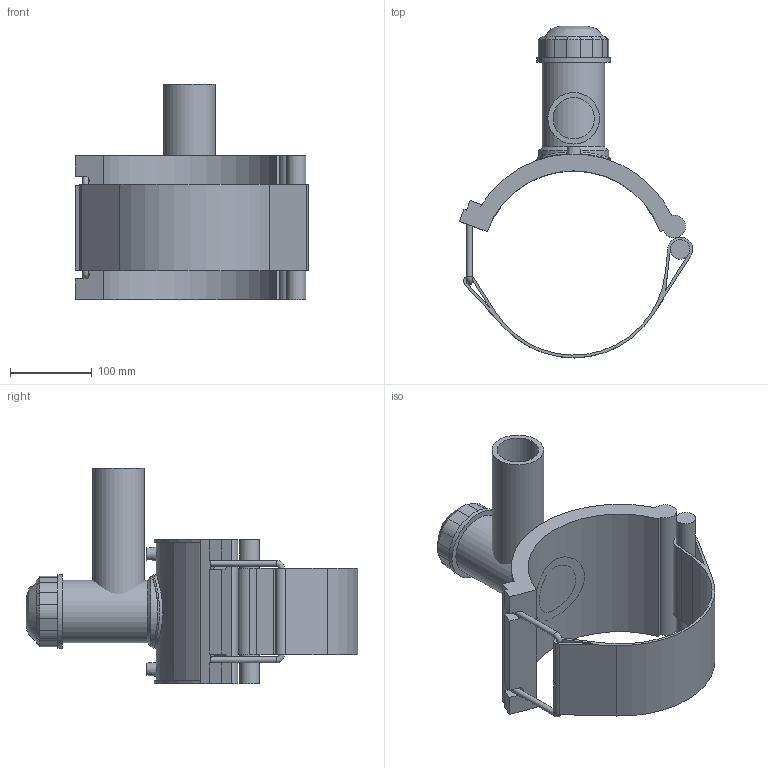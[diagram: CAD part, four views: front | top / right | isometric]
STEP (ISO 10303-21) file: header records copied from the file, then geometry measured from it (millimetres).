
FILE_DESCRIPTION(/* description */ (''),/* implementation_level */ '2;1');
FILE_NAME(/* name */ 'C:\Dropbox\KIMPROJECTS-Inventor 2019\99-16-3568-Processing\ElectroFusion Fittings\4963P4\stp\4963P4225063.stp',/* time_stamp */ '2022-03-17T11:32:47+02:00',/* author */ ('KIM'),/* organization */ (''),/* preprocessor_version */ 'ST-DEVELOPER v17.2',/* originating_system */ 'Autodesk Inventor 2019',/* authorisation */ '');
FILE_SCHEMA (('AUTOMOTIVE_DESIGN { 1 0 10303 214 3 1 1 }'));
Length unit declared in the file: millimetre
Products named in the file (1): 4963P4225063
Bounding box: 284.81 x 405.37 x 263 mm (x, y, z)
Volume: 2071283.5 mm3; surface area: 418928.4 mm2
Topology: 3 solids, 3 shells, 118 faces, 303 edges, 197 vertices
Faces by surface type: plane 65, cylinder 38, cone 11, torus 2, bspline 2
Full cylindrical faces by diameter (mm): 4 x2, 7.2 x2, 10 x2, 23.712 x1, 50.4 x1, 63 x2, 76.5 x1, 85.5 x1, 90 x2
Entity records: 4128 total; most frequent: CARTESIAN_POINT 1106, DIRECTION 639, ORIENTED_EDGE 608, EDGE_CURVE 304, AXIS2_PLACEMENT_3D 233, VERTEX_POINT 197, LINE 173, VECTOR 173
